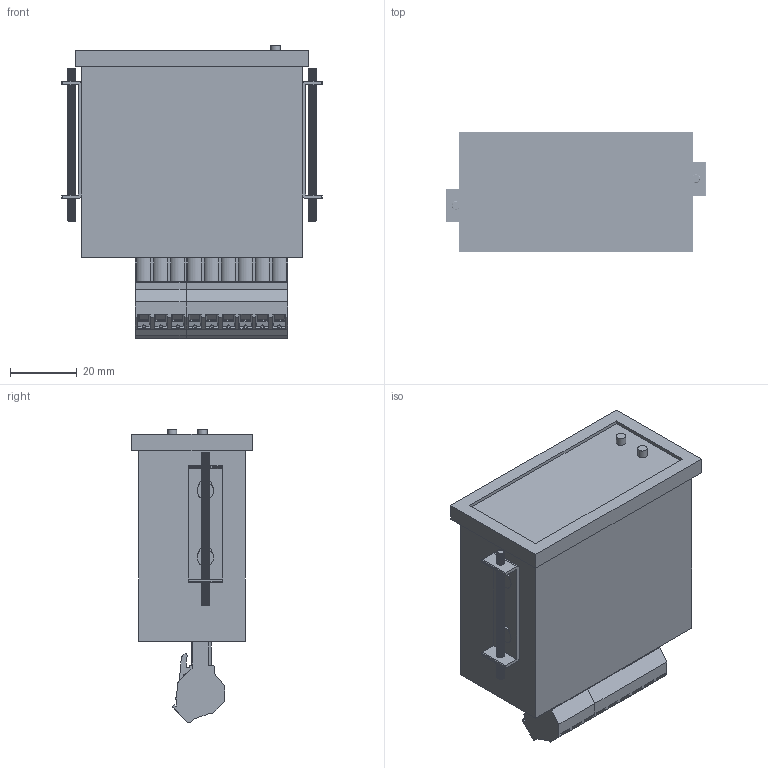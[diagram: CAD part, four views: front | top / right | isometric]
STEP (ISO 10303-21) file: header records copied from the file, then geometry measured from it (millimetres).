
FILE_DESCRIPTION(/* description */ (''),/* implementation_level */ '2;1');
FILE_NAME(/* name */ '9400iCmV_.step',/* time_stamp */ '2024-08-05T09:59:05+02:00',/* author */ (''),/* organization */ (''),/* preprocessor_version */ 'ST-DEVELOPER v20',/* originating_system */ 'Autodesk Translation Framework v13.14.0.145',/* authorisation */ '');
FILE_SCHEMA (('AUTOMOTIVE_DESIGN { 1 0 10303 214 3 1 1 }'));
Products named in the file (7): 9400iCmV; 1826296 v1; 1826296; Pie petit v2; Pie petit v2 (1); 1826322 v1; 1826322
Assembly tree (6 placements, depth 3):
  9400iCmV
    1826296 v1
      1826296
    Pie petit v2
    Pie petit v2 (1)
    1826322 v1
      1826322
Bounding box: 78 x 36 x 88 mm (x, y, z)
Volume: 141992.9 mm3; surface area: 26027.5 mm2
Topology: 7 solids, 7 shells, 1083 faces, 2989 edges, 1982 vertices
Faces by surface type: cylinder 612, plane 463, sphere 4, bspline 4
Full cylindrical faces by diameter (mm): 0.457 x2, 1.4 x9, 2.016 x84, 2.5 x4, 2.53 x142, 2.8 x9, 3.783 x9, 4 x9, 5 x4
Entity records: 57595 total; most frequent: CARTESIAN_POINT 30281, ORIENTED_EDGE 5978, DIRECTION 4843, EDGE_CURVE 2989, VERTEX_POINT 1982, LINE 1651, VECTOR 1651, AXIS2_PLACEMENT_3D 1596
